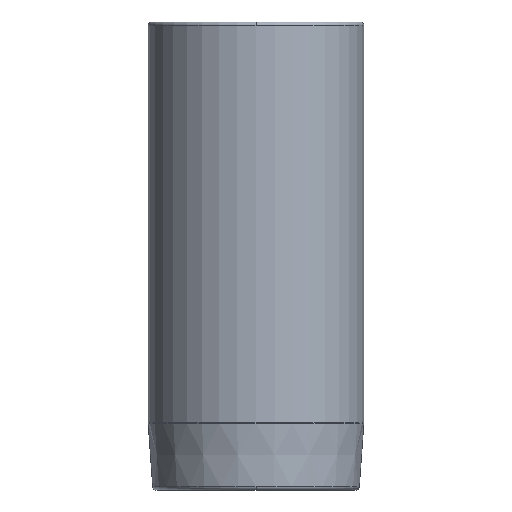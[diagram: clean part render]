
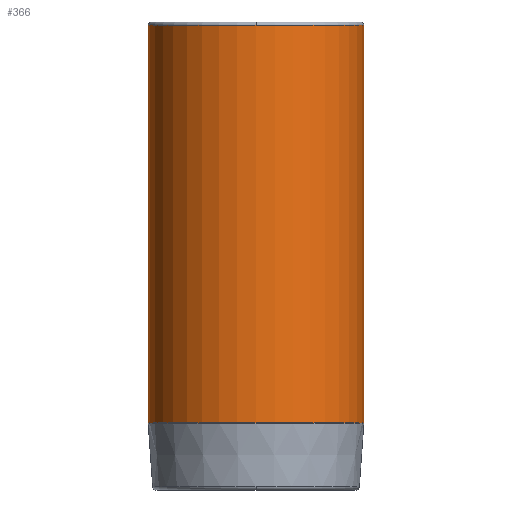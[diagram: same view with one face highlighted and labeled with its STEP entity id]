
A CAD part, front view. The second image highlights one B-rep face of the part: STEP entity #366.
In plain terms, the highlighted cylindrical face has radius 16.125 mm (diameter 32.25 mm), a partial arc.
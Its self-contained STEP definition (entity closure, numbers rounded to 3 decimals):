
#271=CARTESIAN_POINT('',(0.0,-16.125,34.5));
#272=VERTEX_POINT('',#271);
#298=CARTESIAN_POINT('',(-16.125,0.,34.5));
#299=VERTEX_POINT('',#298);
#307=CARTESIAN_POINT('',(0.0,0.,34.5));
#308=DIRECTION('',(0.0,0.0,1.0));
#309=DIRECTION('',(1.0,0.0,0.0));
#310=AXIS2_PLACEMENT_3D('',#307,#308,#309);
#311=CIRCLE('',#310,16.125);
#312=EDGE_CURVE('',#299,#272,#311,.T.);
#317=CARTESIAN_POINT('',(0.0,0.,4.767));
#318=DIRECTION('',(0.0,0.,1.0));
#319=DIRECTION('',(1.0,0.0,0.0));
#320=AXIS2_PLACEMENT_3D('',#317,#318,#319);
#321=CYLINDRICAL_SURFACE('',#320,16.125);
#322=CARTESIAN_POINT('',(16.125,0.,34.5));
#323=VERTEX_POINT('',#322);
#324=CARTESIAN_POINT('',(16.125,0.,-24.965));
#325=VERTEX_POINT('',#324);
#326=CARTESIAN_POINT('',(16.125,0.,34.5));
#327=DIRECTION('',(0.0,0.0,-1.0));
#328=VECTOR('',#327,59.465);
#329=LINE('',#326,#328);
#330=EDGE_CURVE('',#323,#325,#329,.T.);
#331=ORIENTED_EDGE('',*,*,#330,.F.);
#332=CARTESIAN_POINT('',(0.0,0.,34.5));
#333=DIRECTION('',(0.0,0.0,1.0));
#334=DIRECTION('',(1.0,0.0,0.0));
#335=AXIS2_PLACEMENT_3D('',#332,#333,#334);
#336=CIRCLE('',#335,16.125);
#337=EDGE_CURVE('',#272,#323,#336,.T.);
#338=ORIENTED_EDGE('',*,*,#337,.F.);
#339=ORIENTED_EDGE('',*,*,#312,.F.);
#340=CARTESIAN_POINT('',(-16.125,0.,-24.965));
#341=VERTEX_POINT('',#340);
#342=CARTESIAN_POINT('',(-16.125,0.,34.5));
#343=DIRECTION('',(0.0,0.0,-1.0));
#344=VECTOR('',#343,59.465);
#345=LINE('',#342,#344);
#346=EDGE_CURVE('',#299,#341,#345,.T.);
#347=ORIENTED_EDGE('',*,*,#346,.T.);
#348=CARTESIAN_POINT('',(0.0,-16.125,-24.965));
#349=VERTEX_POINT('',#348);
#350=CARTESIAN_POINT('',(0.0,0.,-24.965));
#351=DIRECTION('',(0.0,0.0,1.0));
#352=DIRECTION('',(1.0,0.0,0.0));
#353=AXIS2_PLACEMENT_3D('',#350,#351,#352);
#354=CIRCLE('',#353,16.125);
#355=EDGE_CURVE('',#341,#349,#354,.T.);
#356=ORIENTED_EDGE('',*,*,#355,.T.);
#357=CARTESIAN_POINT('',(0.0,0.,-24.965));
#358=DIRECTION('',(0.0,0.0,1.0));
#359=DIRECTION('',(1.0,0.0,0.0));
#360=AXIS2_PLACEMENT_3D('',#357,#358,#359);
#361=CIRCLE('',#360,16.125);
#362=EDGE_CURVE('',#349,#325,#361,.T.);
#363=ORIENTED_EDGE('',*,*,#362,.T.);
#364=EDGE_LOOP('',(#331,#338,#339,#347,#356,#363));
#365=FACE_OUTER_BOUND('',#364,.T.);
#366=ADVANCED_FACE('',(#365),#321,.T.);
